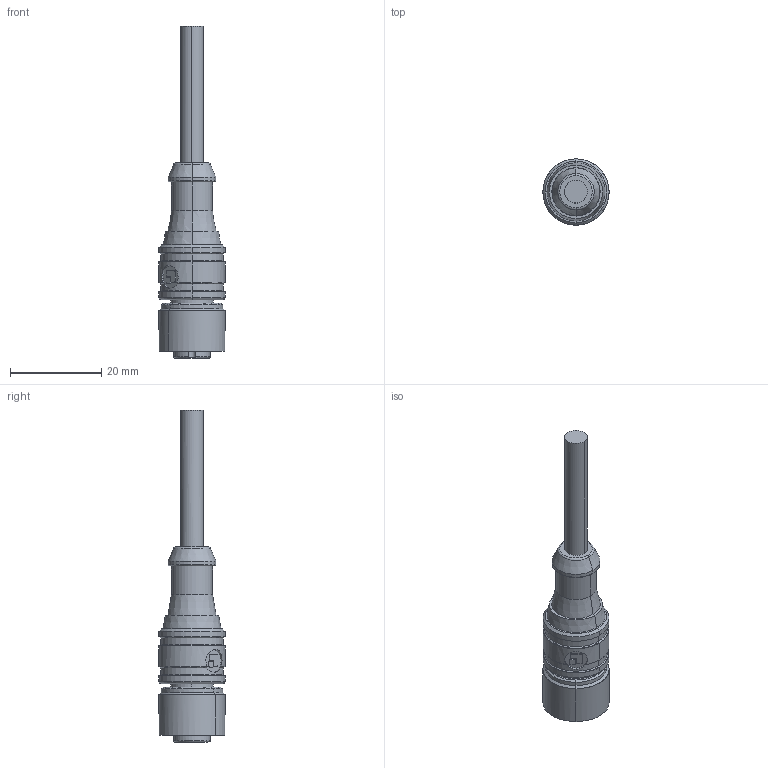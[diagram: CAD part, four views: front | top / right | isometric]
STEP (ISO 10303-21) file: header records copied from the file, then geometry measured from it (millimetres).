
FILE_DESCRIPTION(('Creo Elements/Direct Modeling STEP Export'),'2;1');
FILE_NAME('C:/Data/JobServerData/JobServer Files/4a7db8a1-4b5b-4230-a922-87c3fbdaa2dc/work/output/model.stp','2018-04-11T 9:56:57',(''),(''),'PTC Creo Elements/Direct Modeling STEP processor for AP214 (Solid Model)','PTC Creo Elements/Direct Modeling 19.0B 21-Mar-2015 (C) Parametric Technology GmbH','');
FILE_SCHEMA(('AUTOMOTIVE_DESIGN { 1 0 10303 214 1 1 1 1 }'));
Length unit declared in the file: millimetre
Products named in the file (2): 1200_03
Assembly tree (1 placements, depth 2):
  1200_03
    1200_03
Bounding box: 14.5 x 14.5 x 72.8 mm (x, y, z)
Volume: 5349.4 mm3; surface area: 3126.6 mm2
Topology: 1 solids, 1 shells, 131 faces, 304 edges, 193 vertices
Faces by surface type: plane 49, cylinder 45, cone 24, torus 11, revolution 2
Entity records: 5498 total; most frequent: CARTESIAN_POINT 2261, ORIENTED_EDGE 608, DIRECTION 583, EDGE_CURVE 304, AXIS2_PLACEMENT_3D 219, VERTEX_POINT 193, EDGE_LOOP 149, VECTOR 142
